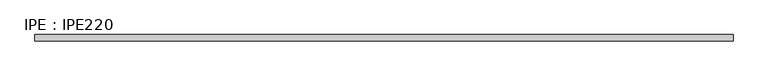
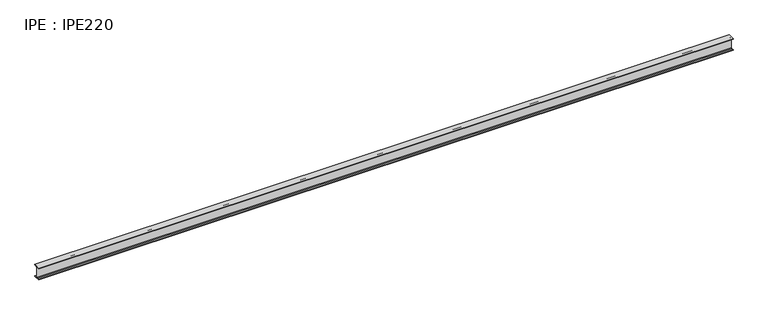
"""IFC4 building model written with IfcOpenShell, lengths in millimetres: beam geometry, IPE : IPE220."""

from ifc_helpers import new_model, si_unit, point, frame, frame_2d, origin, place, context, project, spatial, polyline, circle_curve, trimmed, segment, composite_curve, outline, extrude, source, transform, mapped, element, save


def ipe_ipe220_665dec7c(model_context):
    return source(origin(), model_context, "Body", "SweptSolid", [
        extrude(outline(composite_curve([segment(polyline([(55.0, -100.8), (55.0, -110.0), (-55.0, -110.0), (-55.0, -100.8), (-14.95, -100.8)]), True, "CONTINUOUS"), segment(trimmed(circle_curve(frame_2d((-14.95, -88.8)), 12.0), [point((-14.95, -100.8))], [point((-2.95, -88.8))], True, "CARTESIAN"), True, "CONTINUOUS"), segment(polyline([(-2.95, -88.8), (-2.95, 88.8)]), True, "CONTINUOUS"), segment(trimmed(circle_curve(frame_2d((-14.95, 88.8)), 12.0), [point((-2.95, 88.8))], [point((-14.95, 100.8))], True, "CARTESIAN"), True, "CONTINUOUS"), segment(polyline([(-14.95, 100.8), (-55.0, 100.8), (-55.0, 110.0), (55.0, 110.0), (55.0, 100.8), (14.95, 100.8)]), True, "CONTINUOUS"), segment(trimmed(circle_curve(frame_2d((14.95, 88.8)), 12.0), [point((14.95, 100.8))], [point((2.95, 88.8))], True, "CARTESIAN"), True, "CONTINUOUS"), segment(polyline([(2.95, 88.8), (2.95, -88.8)]), True, "CONTINUOUS"), segment(trimmed(circle_curve(frame_2d((14.95, -88.8)), 12.0), [point((2.95, -88.8))], [point((14.95, -100.8))], True, "CARTESIAN"), True, "CONTINUOUS"), segment(polyline([(14.95, -100.8), (55.0, -100.8)]), True, "CONTINUOUS")], self_intersect=False)), frame((-6077.35, 0.0, 0.0), z_axis=(1.0, 0.0, 0.0), x_axis=(0.0, 1.0, 0.0)), (0.0, 0.0, 1.0), 12100.7),
    ])


if __name__ == "__main__":
    model = new_model("IFC4")
    model_context = context("Model", 3, world=origin())
    ifc_project = project(units=[si_unit("LENGTHUNIT", "METRE", prefix="MILLI")], contexts=[model_context])
    site = spatial("IfcSite", under=ifc_project)
    building = spatial("IfcBuilding", under=site)
    placement = place(None, origin())
    ipe_ipe220_shape = ipe_ipe220_665dec7c(model_context)
    element("IfcBeam", 1, ObjectType="IPE : IPE220", at=placement, inside=building, context=model_context, shape_type="MappedRepresentation", body=[
        mapped(ipe_ipe220_shape, transform((0.0, 0.0, 0.0), x_axis=(1.0, 0.0, 0.0), y_axis=(0.0, 1.0, 0.0), z_axis=(0.0, 0.0, 1.0))),
    ])
    save(model, "model.ifc")
